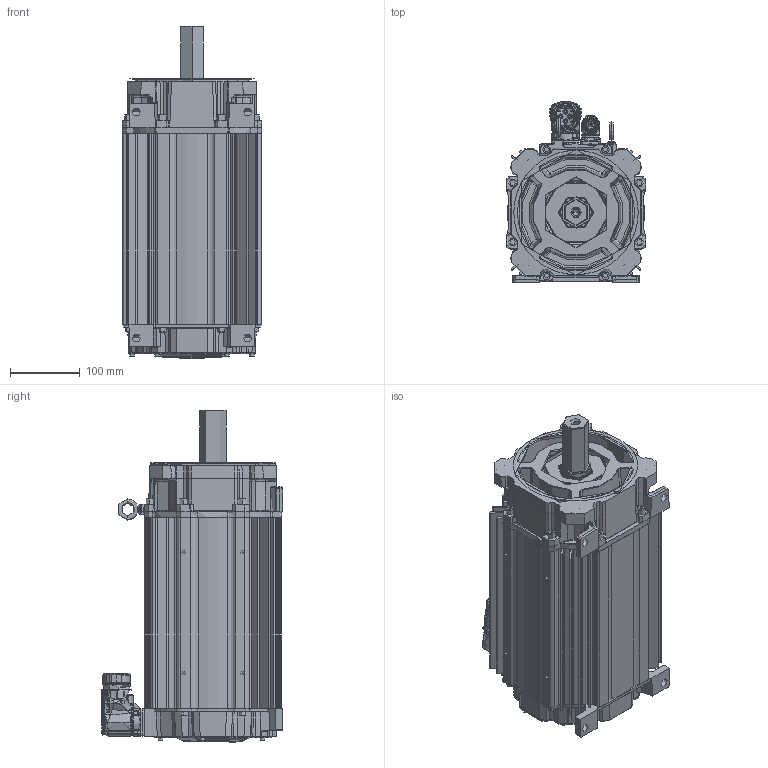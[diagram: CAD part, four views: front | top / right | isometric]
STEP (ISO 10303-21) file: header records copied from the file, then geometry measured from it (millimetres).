
FILE_DESCRIPTION((''),'2;1');
FILE_NAME('10001410822_ASM','2020-01-16T09:05:31',('VThimma'),('Rockwell Automation'),'CREO PARAMETRIC BY PTC INC, 2017380','CREO PARAMETRIC BY PTC INC, 2017380','');
FILE_SCHEMA(('CONFIG_CONTROL_DESIGN','SHAPE_APPEARANCE_LAYERS_GROUPS'));
Products named in the file (26): 10001365220; 10001238886_AF0; 10001298482_AF22; 10001284445_ASM; CH31X150; 10001406656_ASM; 10001334964_KEYLESS; 10001398525_ASM; 10001257630_AF255; 10001300098_AF227; 10001284488_ASM; 10001586886; 0002-5005; 10000014325-2; 10000014331; 10000014332-460; 10000014330-460_ASM; 10000172464; PWR40CONN-BRK; PWR40BASE; 10000806125_ASM; 221404-Q12; 10000569218; 10001290343; 10001609981; 10001410822_ASM
Assembly tree (52 placements, depth 4):
  10001410822_ASM
    10001406656_ASM
      10001365220
      10001284445_ASM
        10001238886_AF0
        10001298482_AF22
      CH31X150  x8
    10001398525_ASM
      10001334964_KEYLESS
    10001284488_ASM
      10001257630_AF255
      10001300098_AF227
    10001586886  x8
    0002-5005  x2
    10000014330-460_ASM
      10000014325-2
      10000014331
      10000014332-460
    10000172464  x4
    10000806125_ASM
      PWR40CONN-BRK
      PWR40BASE
    221404-Q12  x10
    10000569218
    10001290343
    10001609981
Bounding box: 200.45 x 260.05 x 476.79 mm (x, y, z)
Topology: 0 solids, 70 shells, 7386 faces, 19106 edges, 11876 vertices
Faces by surface type: cylinder 2181, plane 1756, bspline 1628, torus 918, cone 685, sphere 175, extrusion 42, revolution 1
Entity records: 380107 total; most frequent: CARTESIAN_POINT 149338, ORIENTED_EDGE 31569, DIRECTION 26489, PRESENTATION_STYLE_ASSIGNMENT 21957, STYLED_ITEM 21957, CURVE_STYLE 15896, EDGE_CURVE 15854, AXIS2_PLACEMENT_3D 10802
